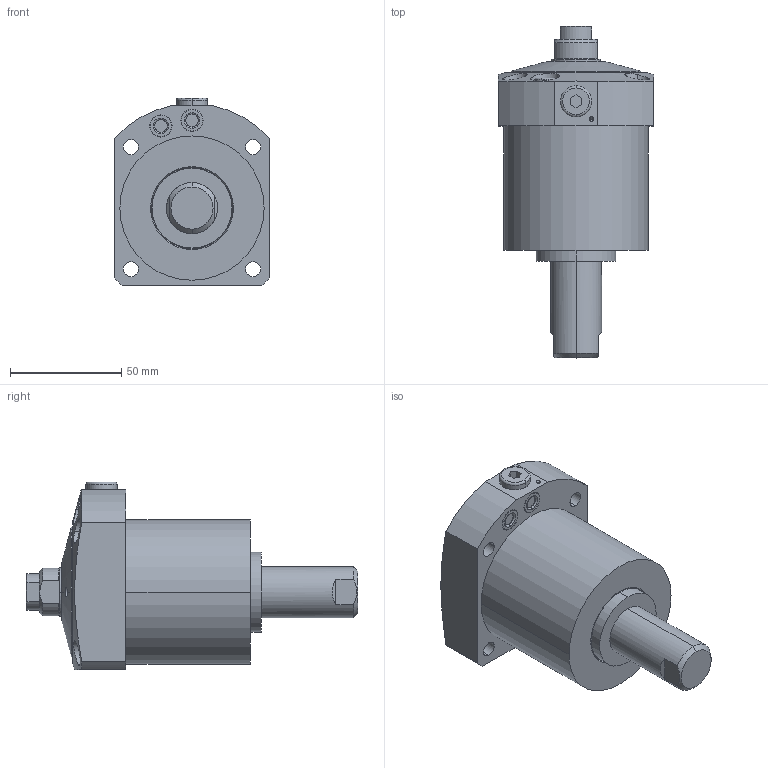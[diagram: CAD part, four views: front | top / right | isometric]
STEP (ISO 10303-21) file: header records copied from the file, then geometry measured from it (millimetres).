
FILE_DESCRIPTION(/* description */ (''),/* implementation_level */ '2;1');
FILE_NAME(/* name */ 'KFSC65-Q.stp',/* time_stamp */ '2023-01-10T13:12:47+08:00',/* author */ (''),/* organization */ (''),/* preprocessor_version */ 'ST-DEVELOPER v16.7',/* originating_system */ 'SIEMENS PLM Software NX 12.0',/* authorisation */ '');
FILE_SCHEMA (('AP203_CONFIGURATION_CONTROLLED_3D_DESIGN_OF_MECHANICAL_PARTS_AND_ASSEMBLIES_MIM_LF { 1 0 10303 403 2 1 2}'));
Length unit declared in the file: millimetre
Products named in the file (8): KFSC65-Q-5; KFSC65-Q-6; KFSC65-Q-7; KFSC65-Q-4; KFSC65-Q-1; KFSC65-Q-2; KFSC65-Q-3; LC0652-C-Q_step
Assembly tree (8 placements, depth 2):
  LC0652-C-Q_step
    KFSC65-Q-3
    KFSC65-Q-2
    KFSC65-Q-1
    KFSC65-Q-4
    KFSC65-Q-7
    KFSC65-Q-6  x2
    KFSC65-Q-5
Bounding box: 70 x 149.5 x 84.5 mm (x, y, z)
Volume: 339444.4 mm3; surface area: 44291.7 mm2
Topology: 8 solids, 8 shells, 221 faces, 486 edges, 300 vertices
Faces by surface type: cylinder 84, plane 65, cone 42, torus 28, sphere 2
Entity records: 6926 total; most frequent: CARTESIAN_POINT 1230, DIRECTION 1092, ORIENTED_EDGE 912, EDGE_CURVE 456, AXIS2_PLACEMENT_3D 454, VERTEX_POINT 286, EDGE_LOOP 246, CIRCLE 236
